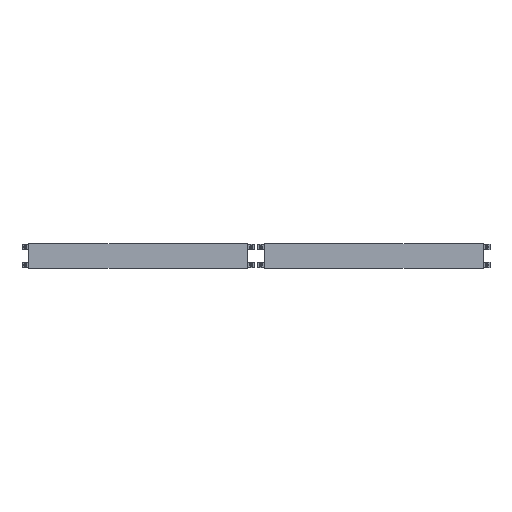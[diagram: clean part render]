
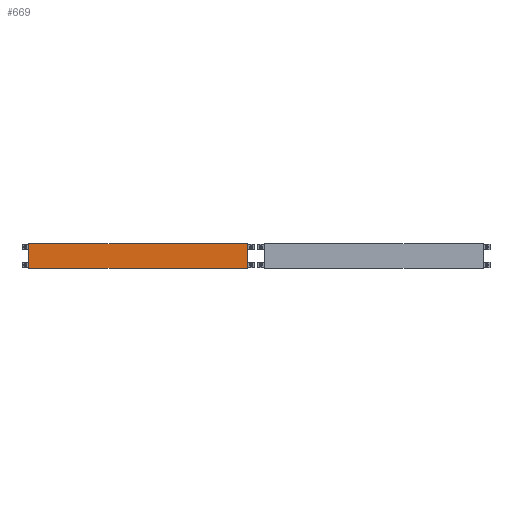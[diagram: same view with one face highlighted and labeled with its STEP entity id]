
A CAD part, top view. The second image highlights one B-rep face of the part: STEP entity #669.
In plain terms, the highlighted planar face has unit normal (0, 0, 1).
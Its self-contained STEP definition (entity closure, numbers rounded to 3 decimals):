
#348 = VERTEX_POINT('',#349);
#349 = CARTESIAN_POINT('',(345.,-39.,0.));
#355 = EDGE_CURVE('',#348,#356,#358,.T.);
#356 = VERTEX_POINT('',#357);
#357 = CARTESIAN_POINT('',(-345.,-39.,-0.));
#358 = LINE('',#359,#360);
#359 = CARTESIAN_POINT('',(0.,-39.,-0.));
#360 = VECTOR('',#361,1.);
#361 = DIRECTION('',(-1.,-0.,-0.));
#536 = VERTEX_POINT('',#537);
#537 = CARTESIAN_POINT('',(-345.,39.,0.));
#543 = EDGE_CURVE('',#536,#544,#546,.T.);
#544 = VERTEX_POINT('',#545);
#545 = CARTESIAN_POINT('',(345.,39.,0.));
#546 = LINE('',#547,#548);
#547 = CARTESIAN_POINT('',(0.,39.,0.));
#548 = VECTOR('',#549,1.);
#549 = DIRECTION('',(1.,-0.,-0.));
#669 = ADVANCED_FACE('',(#670),#718,.F.);
#670 = FACE_BOUND('',#671,.T.);
#671 = EDGE_LOOP('',(#672,#682,#688,#689,#697,#705,#711,#712));
#672 = ORIENTED_EDGE('',*,*,#673,.T.);
#673 = EDGE_CURVE('',#674,#676,#678,.T.);
#674 = VERTEX_POINT('',#675);
#675 = CARTESIAN_POINT('',(-345.,36.4,0.));
#676 = VERTEX_POINT('',#677);
#677 = CARTESIAN_POINT('',(-345.,-36.4,0.));
#678 = LINE('',#679,#680);
#679 = CARTESIAN_POINT('',(-345.,-39.,0.));
#680 = VECTOR('',#681,1.);
#681 = DIRECTION('',(-0.,-1.,-0.));
#682 = ORIENTED_EDGE('',*,*,#683,.T.);
#683 = EDGE_CURVE('',#676,#356,#684,.T.);
#684 = LINE('',#685,#686);
#685 = CARTESIAN_POINT('',(-345.,-36.4,0.));
#686 = VECTOR('',#687,1.);
#687 = DIRECTION('',(-0.,-1.,-0.));
#688 = ORIENTED_EDGE('',*,*,#355,.F.);
#689 = ORIENTED_EDGE('',*,*,#690,.F.);
#690 = EDGE_CURVE('',#691,#348,#693,.T.);
#691 = VERTEX_POINT('',#692);
#692 = CARTESIAN_POINT('',(345.,-36.4,0.));
#693 = LINE('',#694,#695);
#694 = CARTESIAN_POINT('',(345.,0.,0.));
#695 = VECTOR('',#696,1.);
#696 = DIRECTION('',(-0.,-1.,0.));
#697 = ORIENTED_EDGE('',*,*,#698,.T.);
#698 = EDGE_CURVE('',#691,#699,#701,.T.);
#699 = VERTEX_POINT('',#700);
#700 = CARTESIAN_POINT('',(345.,36.4,0.));
#701 = LINE('',#702,#703);
#702 = CARTESIAN_POINT('',(345.,-39.,0.));
#703 = VECTOR('',#704,1.);
#704 = DIRECTION('',(0.,1.,0.));
#705 = ORIENTED_EDGE('',*,*,#706,.T.);
#706 = EDGE_CURVE('',#699,#544,#707,.T.);
#707 = LINE('',#708,#709);
#708 = CARTESIAN_POINT('',(345.,36.4,0.));
#709 = VECTOR('',#710,1.);
#710 = DIRECTION('',(-0.,1.,-0.));
#711 = ORIENTED_EDGE('',*,*,#543,.F.);
#712 = ORIENTED_EDGE('',*,*,#713,.F.);
#713 = EDGE_CURVE('',#674,#536,#714,.T.);
#714 = LINE('',#715,#716);
#715 = CARTESIAN_POINT('',(-345.,0.,0.));
#716 = VECTOR('',#717,1.);
#717 = DIRECTION('',(0.,1.,0.));
#718 = PLANE('',#719);
#719 = AXIS2_PLACEMENT_3D('',#720,#721,#722);
#720 = CARTESIAN_POINT('',(0.,0.,0.));
#721 = DIRECTION('',(0.,0.,-1.));
#722 = DIRECTION('',(-1.,0.,-0.));
